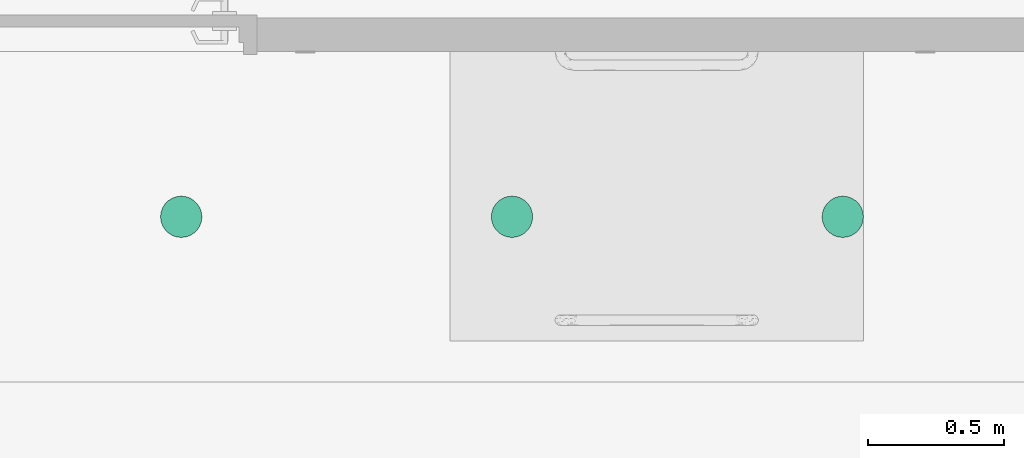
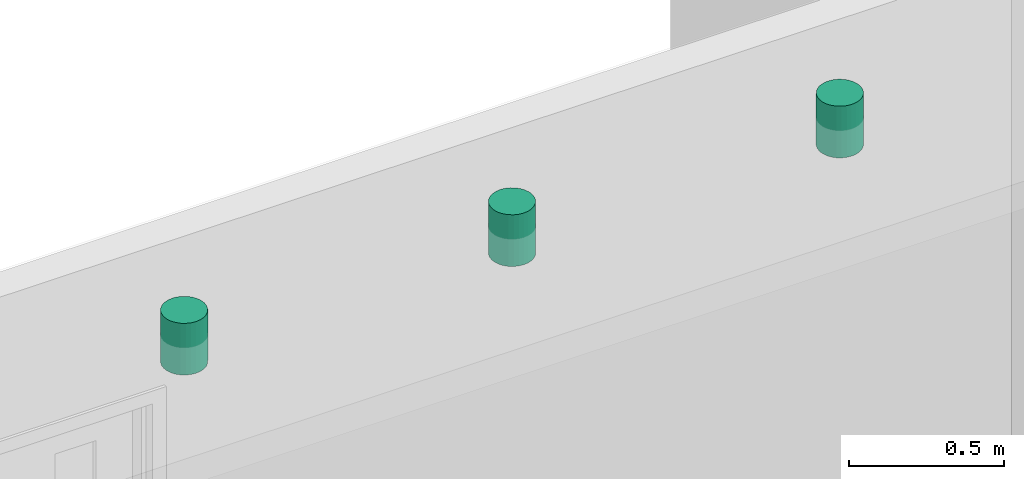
# One storey, part 4 of 5: 3 flow terminals.
"""IFC2X3 building model written with IfcOpenShell, lengths in feet."""

from ifc_helpers import new_model, entity, si_unit, converted_unit, derived_unit, direction, frame, frame_2d, origin, place, context, subcontext, project, spatial, circle, extrude, source, transform, mapped, type_object, type_shapes, element, save


model = new_model("IFC2X3")

# Units and contexts
model_context = context("Model", 3, precision=0.0001, world=origin(), true_north=direction((6.12303176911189e-17, 1.0)))
body_context = subcontext(model_context, "Body", "Model", "MODEL_VIEW")
ifc_project = project(units=[converted_unit("LENGTHUNIT", "FOOT", entity("IfcRatioMeasure", 0.3048), si_unit("LENGTHUNIT", "METRE"), dimensions=[1, 0, 0, 0, 0, 0, 0]), converted_unit("AREAUNIT", "SQUARE FOOT", entity("IfcRatioMeasure", 0.09290304), si_unit("AREAUNIT", "SQUARE_METRE"), dimensions=[2, 0, 0, 0, 0, 0, 0]), converted_unit("VOLUMEUNIT", "CUBIC FOOT", entity("IfcRatioMeasure", 0.028316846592), si_unit("VOLUMEUNIT", "CUBIC_METRE"), dimensions=[3, 0, 0, 0, 0, 0, 0]), converted_unit("PLANEANGLEUNIT", "DEGREE", entity("IfcRatioMeasure", 0.0174532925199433), si_unit("PLANEANGLEUNIT", "RADIAN"), dimensions=[0, 0, 0, 0, 0, 0, 0]), si_unit("MASSUNIT", "GRAM", prefix="KILO"), derived_unit("MASSDENSITYUNIT", [(si_unit("MASSUNIT", "GRAM", prefix="KILO"), 1), (si_unit("LENGTHUNIT", "METRE"), -3)]), si_unit("TIMEUNIT", "SECOND"), si_unit("FREQUENCYUNIT", "HERTZ"), si_unit("THERMODYNAMICTEMPERATUREUNIT", "DEGREE_CELSIUS"), derived_unit("THERMALTRANSMITTANCEUNIT", [(si_unit("MASSUNIT", "GRAM", prefix="KILO"), 1), (si_unit("THERMODYNAMICTEMPERATUREUNIT", "KELVIN"), -1), (si_unit("TIMEUNIT", "SECOND"), -3)]), derived_unit("VOLUMETRICFLOWRATEUNIT", [(si_unit("LENGTHUNIT", "METRE"), 3), (si_unit("TIMEUNIT", "SECOND"), -1)]), si_unit("ELECTRICCURRENTUNIT", "AMPERE"), si_unit("ELECTRICVOLTAGEUNIT", "VOLT"), si_unit("POWERUNIT", "WATT"), si_unit("FORCEUNIT", "NEWTON"), si_unit("ILLUMINANCEUNIT", "LUX"), si_unit("LUMINOUSFLUXUNIT", "LUMEN"), si_unit("LUMINOUSINTENSITYUNIT", "CANDELA"), derived_unit("USERDEFINED", [(si_unit("MASSUNIT", "GRAM", prefix="KILO"), -1), (si_unit("LENGTHUNIT", "METRE"), -2), (si_unit("TIMEUNIT", "SECOND"), 3), (si_unit("LUMINOUSFLUXUNIT", "LUMEN"), 1)]), derived_unit("LINEARVELOCITYUNIT", [(si_unit("LENGTHUNIT", "METRE"), 1), (si_unit("TIMEUNIT", "SECOND"), -1)]), si_unit("PRESSUREUNIT", "PASCAL"), derived_unit("USERDEFINED", [(si_unit("LENGTHUNIT", "METRE"), -2), (si_unit("MASSUNIT", "GRAM", prefix="KILO"), 1), (si_unit("TIMEUNIT", "SECOND"), -2)])], contexts=[model_context])

# Site, building, storey, space
site_placement = place(None, origin())
site = spatial("IfcSite", under=ifc_project, at=site_placement, Name="Default", CompositionType="ELEMENT")
building_placement = place(site_placement, origin())
building = spatial("IfcBuilding", under=site, at=building_placement, Name="OUTPATIENT / PACT CLINIC (Ch. 265)", CompositionType="ELEMENT")
storey_placement = place(building_placement, origin())
storey = spatial("IfcBuildingStorey", under=building, at=storey_placement, Name="DATUM", CompositionType="ELEMENT", Elevation=0.0)
space_placement = place(storey_placement, origin())
space = spatial("IfcSpace", under=storey, at=space_placement, Name="PEHW2", CompositionType="ELEMENT", InteriorOrExteriorSpace="INTERNAL")

# Flow terminals
light_fixture_type = type_object("IfcLightFixtureType", Name="6\"", PredefinedType="NOTDEFINED")
shared_shape = source(origin(), body_context, "Body", "SweptSolid", [
    extrude(circle(Radius=0.25, at=frame_2d((0.0, -3.88578058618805e-16), x_axis=(1.0, 0.0))), frame((0.132132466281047, -0.159583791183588, 7.99242651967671)), (0.0, 0.0, 1.0), 0.666666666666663),
])
type_shapes(light_fixture_type, [shared_shape])
for number, where in (
    (1, (-433.421459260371, -859.05791647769, 1.00757348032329)),
    (2, (-429.421459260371, -859.05791647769, 1.00757348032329)),
    (3, (-425.421459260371, -859.05791647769, 1.00757348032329)),
):
    element("IfcFlowTerminal", number, at=place(space_placement, frame(where)), inside=space, type_object=light_fixture_type, Name="Downlight - Recessed Can:6\"", ObjectType="6\"", context=body_context, shape_type="MappedRepresentation", body=[
        mapped(shared_shape, transform((0.0, 0.0, 0.0), scale=1.0)),
    ])

save(model, "model.ifc")
